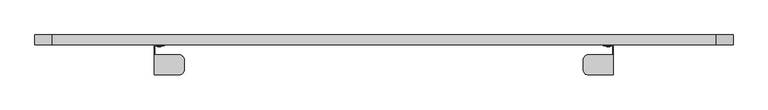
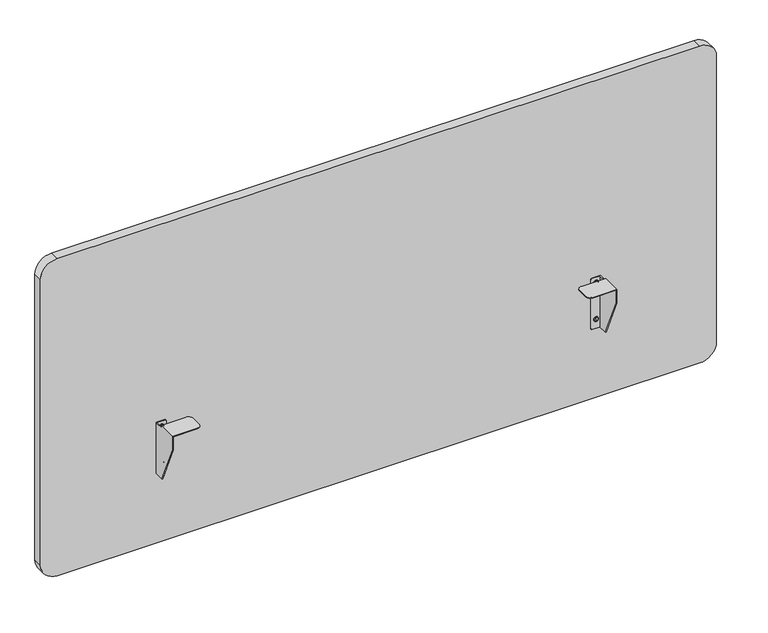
"""IFC4 building model written with IfcOpenShell, lengths in millimetres: furniture geometry."""

from ifc_helpers import new_model, si_unit, point, frame, frame_2d, origin, place, context, project, spatial, polyline, circle_curve, ellipse_curve, trimmed, segment, composite_curve, outline, extrude, source, transform, mapped, element, save
from ifc_brep_helpers import plane_surface, cylinder_surface, revolved_surface, advanced_brep


def furniture_34fdd63b(model_context):
    return source(origin(), model_context, "Body", "SolidModel", [
        advanced_brep(
        [(1460.5, 21.8059009, 589.8587612), (1460.5, 21.8059009, 595.0458981), (1460.5, 21.8059009, 600.2330349), (1460.5, 20.9972467, 589.0501071), (1460.5, 20.9972467, 601.041689), (1460.5, 19.6576489, 589.3571695), (1460.5, 19.6576489, 600.7346266), (1460.5, 18.6965248, 595.0458981)],
        [
            (0, 1),
            (1, 2),
            (2, 0, circle_curve(frame((1460.5, 21.8059009, 595.0458981), z_axis=(0.0, 1.0, 0.0), x_axis=(0.0, 0.0, 1.0)), 5.1871369)),
            (0, 2, circle_curve(frame((1460.5, 21.8059009, 595.0458981), z_axis=(0.0, 1.0, 0.0), x_axis=(0.0, 0.0, 1.0)), 5.1871369)),
            (3, 0),
            (2, 4),
            (4, 3, circle_curve(frame((1460.5, 20.9972467, 595.0458981), z_axis=(0.0, 1.0, 0.0), x_axis=(0.0, 0.0, 1.0)), 5.995791)),
            (3, 4, circle_curve(frame((1460.5, 20.9972467, 595.0458981), z_axis=(0.0, 1.0, 0.0), x_axis=(0.0, 0.0, 1.0)), 5.995791)),
            (5, 3, circle_curve(frame((1460.5, 20.4237193, 589.6236345), z_axis=(1.0, 0.0, 0.0), x_axis=(0.0, 1.0, 0.0)), 0.8110903)),
            (4, 6, circle_curve(frame((1460.5, 20.4237193, 600.4681616), z_axis=(1.0, 0.0, 0.0), x_axis=(0.0, 1.0, 0.0)), 0.8110903)),
            (6, 5, circle_curve(frame((1460.5, 19.6576489, 595.0458981), z_axis=(0.0, 1.0, 0.0), x_axis=(0.0, 0.0, 1.0)), 5.6887286)),
            (5, 6, circle_curve(frame((1460.5, 19.6576489, 595.0458981), z_axis=(0.0, 1.0, 0.0), x_axis=(0.0, 0.0, 1.0)), 5.6887286)),
            (7, 5, circle_curve(frame((1460.5, 36.0123901, 595.0458981), z_axis=(1.0, 0.0, 0.0), x_axis=(0.0, 1.0, 0.0)), 17.3158653)),
            (6, 7, circle_curve(frame((1460.5, 36.0123901, 595.0458981), z_axis=(1.0, 0.0, 0.0), x_axis=(0.0, 1.0, 0.0)), 17.3158653)),
        ],
        [
            plane_surface(frame((1460.5, 21.8059009, 595.0458981), z_axis=(0.0, 1.0, 0.0), x_axis=(0.0, 0.0, 1.0))),
            revolved_surface(polyline([(1460.5, 21.8059009, 600.2330349), (1460.5, 20.9972467, 601.041689)]), (1460.5, 24.1274926, 595.0458981), (0.0, -1.0, 0.0)),
            revolved_surface(trimmed(ellipse_curve(frame((1460.5, 20.4237193, 600.4681616), z_axis=(1.0, 0.0, 0.0), x_axis=(0.0, 1.0, 0.0)), 0.8110903, 0.8110903), [point((1460.5, 20.9972467, 601.041689))], [point((1460.5, 19.6576489, 600.7346266))], True, "CARTESIAN"), (1460.5, 24.1274926, 595.0458981), (0.0, -1.0, 0.0)),
            revolved_surface(trimmed(ellipse_curve(frame((1460.5, 36.0123901, 595.0458981), z_axis=(1.0, 0.0, 0.0), x_axis=(0.0, 1.0, 0.0)), 17.3158653, 17.3158653), [point((1460.5, 19.6576489, 600.7346266))], [point((1460.5, 18.6965248, 595.0458981))], True, "CARTESIAN"), (1460.5, 24.1274926, 595.0458981), (0.0, -1.0, 0.0)),
        ],
        [
            (0, [[1, 2, 3]]),
            (0, [[-2, -1, 4]]),
            (1, [[5, -3, 6, 7]]),
            (1, [[-6, -4, -5, 8]]),
            (2, [[9, -7, 10, 11]]),
            (2, [[-10, -8, -9, 12]]),
            (3, [[13, -11, 14]]),
            (3, [[-14, -12, -13]]),
        ],
    ),
        advanced_brep(
        [(1460.5, 21.8059009, 691.4587612), (1460.5, 21.8059009, 696.6458981), (1460.5, 21.8059009, 701.8330349), (1460.5, 20.9972467, 690.6501071), (1460.5, 20.9972467, 702.641689), (1460.5, 19.6576489, 690.9571695), (1460.5, 19.6576489, 702.3346266), (1460.5, 18.6965248, 696.6458981)],
        [
            (0, 1),
            (1, 2),
            (2, 0, circle_curve(frame((1460.5, 21.8059009, 696.6458981), z_axis=(0.0, 1.0, 0.0), x_axis=(0.0, 0.0, 1.0)), 5.1871369)),
            (0, 2, circle_curve(frame((1460.5, 21.8059009, 696.6458981), z_axis=(0.0, 1.0, 0.0), x_axis=(0.0, 0.0, 1.0)), 5.1871369)),
            (3, 0),
            (2, 4),
            (4, 3, circle_curve(frame((1460.5, 20.9972467, 696.6458981), z_axis=(0.0, 1.0, 0.0), x_axis=(0.0, 0.0, 1.0)), 5.995791)),
            (3, 4, circle_curve(frame((1460.5, 20.9972467, 696.6458981), z_axis=(0.0, 1.0, 0.0), x_axis=(0.0, 0.0, 1.0)), 5.995791)),
            (5, 3, circle_curve(frame((1460.5, 20.4237193, 691.2236345), z_axis=(1.0, 0.0, 0.0), x_axis=(0.0, 1.0, 0.0)), 0.8110903)),
            (4, 6, circle_curve(frame((1460.5, 20.4237193, 702.0681616), z_axis=(1.0, 0.0, 0.0), x_axis=(0.0, 1.0, 0.0)), 0.8110903)),
            (6, 5, circle_curve(frame((1460.5, 19.6576489, 696.6458981), z_axis=(0.0, 1.0, 0.0), x_axis=(0.0, 0.0, 1.0)), 5.6887286)),
            (5, 6, circle_curve(frame((1460.5, 19.6576489, 696.6458981), z_axis=(0.0, 1.0, 0.0), x_axis=(0.0, 0.0, 1.0)), 5.6887286)),
            (7, 5, circle_curve(frame((1460.5, 36.0123901, 696.6458981), z_axis=(1.0, 0.0, 0.0), x_axis=(0.0, 1.0, 0.0)), 17.3158653)),
            (6, 7, circle_curve(frame((1460.5, 36.0123901, 696.6458981), z_axis=(1.0, 0.0, 0.0), x_axis=(0.0, 1.0, 0.0)), 17.3158653)),
        ],
        [
            plane_surface(frame((1460.5, 21.8059009, 696.6458981), z_axis=(0.0, 1.0, 0.0), x_axis=(0.0, 0.0, 1.0))),
            revolved_surface(polyline([(1460.5, 21.8059009, 701.8330349), (1460.5, 20.9972467, 702.641689)]), (1460.5, 24.1274926, 696.6458981), (0.0, -1.0, 0.0)),
            revolved_surface(trimmed(ellipse_curve(frame((1460.5, 20.4237193, 702.0681616), z_axis=(1.0, 0.0, 0.0), x_axis=(0.0, 1.0, 0.0)), 0.8110903, 0.8110903), [point((1460.5, 20.9972467, 702.641689))], [point((1460.5, 19.6576489, 702.3346266))], True, "CARTESIAN"), (1460.5, 24.1274926, 696.6458981), (0.0, -1.0, 0.0)),
            revolved_surface(trimmed(ellipse_curve(frame((1460.5, 36.0123901, 696.6458981), z_axis=(1.0, 0.0, 0.0), x_axis=(0.0, 1.0, 0.0)), 17.3158653, 17.3158653), [point((1460.5, 19.6576489, 702.3346266))], [point((1460.5, 18.6965248, 696.6458981))], True, "CARTESIAN"), (1460.5, 24.1274926, 696.6458981), (0.0, -1.0, 0.0)),
        ],
        [
            (0, [[1, 2, 3]]),
            (0, [[-2, -1, 4]]),
            (1, [[5, -3, 6, 7]]),
            (1, [[-6, -4, -5, 8]]),
            (2, [[9, -7, 10, 11]]),
            (2, [[-10, -8, -9, 12]]),
            (3, [[13, -11, 14]]),
            (3, [[-14, -12, -13]]),
        ],
    ),
        advanced_brep(
        [(1409.7510279, -52.8066014, 717.55), (1409.7510279, -52.8066014, 715.9625), (1471.6635461, -52.8066014, 715.9625), (1471.6635461, -52.8066014, 679.4500392), (1473.2510461, -52.8066014, 679.4500392), (1473.2510461, -52.8066014, 717.55), (1409.7510279, -2.0065999, 715.9625), (1409.7510279, -2.0065999, 717.55), (1473.2510461, -2.0065999, 717.55), (1473.2510461, -2.0065999, 710.2872593), (1471.6635461, -2.0065999, 710.2872593), (1471.6635461, -2.0065999, 715.9625), (1397.0510279, -14.7065999, 717.55), (1397.0510279, -40.1066014, 717.55), (1473.2510461, -3.2766045, 568.7822274), (1473.2510461, 21.8059009, 568.7822274), (1473.2510461, 21.8059009, 710.2872593), (1471.6635461, -3.2766045, 568.7822274), (1471.6635461, 21.8059009, 568.7822274), (1450.232284, 21.8059009, 568.7822274), (1450.232284, 23.3934009, 568.7822274), (1471.6635461, 23.3934009, 568.7822274), (1471.6635461, 21.8059009, 710.2872593), (1397.0510279, -40.1066014, 715.9625), (1397.0510279, -14.7065999, 715.9625), (1471.6635461, 23.3934009, 710.2872593), (1454.5457771, 23.3934009, 710.2872593), (1450.232284, 23.3934009, 710.2872593), (1450.232284, 21.8059009, 710.2872593), (1454.5457771, 21.8059009, 710.2872593), (1447.851034, 21.8059009, 707.9060093), (1447.851034, 21.8059009, 571.1634774), (1447.851034, 23.3934009, 571.1634774), (1447.851034, 23.3934009, 707.9060093)],
        [
            (0, 1),
            (1, 2),
            (2, 3),
            (3, 4),
            (4, 5),
            (5, 0),
            (6, 7),
            (7, 8),
            (8, 9),
            (9, 10),
            (10, 11),
            (11, 6),
            (7, 12, circle_curve(frame((1409.7510279, -14.7065999, 717.55), z_axis=(0.0, 0.0, 1.0), x_axis=(-1.0, 0.0, 0.0)), 12.7)),
            (12, 13),
            (13, 0, circle_curve(frame((1409.7510279, -40.1066014, 717.55), z_axis=(0.0, 0.0, 1.0), x_axis=(-1.0, 0.0, 0.0)), 12.7)),
            (5, 8),
            (4, 14),
            (14, 15),
            (15, 16),
            (16, 9),
            (14, 17),
            (17, 18),
            (18, 19),
            (19, 20),
            (20, 21),
            (21, 15, circle_curve(frame((1471.6635461, 21.8059009, 568.7822274), z_axis=(0.0, 0.0, -1.0), x_axis=(-1.0, 0.0, 0.0)), 1.5875)),
            (10, 22),
            (22, 18),
            (17, 3),
            (2, 11),
            (1, 23, circle_curve(frame((1409.7510279, -40.1066014, 715.9625), z_axis=(0.0, 0.0, -1.0), x_axis=(-1.0, 0.0, 0.0)), 12.7)),
            (23, 24),
            (24, 6, circle_curve(frame((1409.7510279, -14.7065999, 715.9625), z_axis=(0.0, 0.0, -1.0), x_axis=(-1.0, 0.0, 0.0)), 12.7)),
            (12, 24),
            (23, 13),
            (16, 25, circle_curve(frame((1471.6635461, 21.8059009, 710.2872593), z_axis=(0.0, 0.0, 1.0), x_axis=(-1.0, 0.0, 0.0)), 1.5875)),
            (25, 26),
            (26, 27),
            (27, 28),
            (28, 29),
            (29, 22),
            (28, 30, circle_curve(frame((1450.232284, 21.8059009, 707.9060093), z_axis=(0.0, -1.0, 0.0), x_axis=(-1.0, 0.0, 0.0)), 2.38125)),
            (30, 31),
            (31, 19, circle_curve(frame((1450.232284, 21.8059009, 571.1634774), z_axis=(0.0, -1.0, 0.0), x_axis=(-1.0, 0.0, 0.0)), 2.38125)),
            (20, 32, circle_curve(frame((1450.232284, 23.3934009, 571.1634774), z_axis=(0.0, 1.0, 0.0), x_axis=(-1.0, 0.0, 0.0)), 2.38125)),
            (32, 33),
            (33, 27, circle_curve(frame((1450.232284, 23.3934009, 707.9060093), z_axis=(0.0, 1.0, 0.0), x_axis=(-1.0, 0.0, 0.0)), 2.38125)),
            (25, 21),
            (31, 32),
            (33, 30),
        ],
        [
            plane_surface(frame((1474.668122, -52.8066014, 717.55), z_axis=(0.0, -1.0, 0.0), x_axis=(1.0, 0.0, 0.0))),
            plane_surface(frame((1474.668122, -2.0065999, 717.55), z_axis=(0.0, 1.0, 0.0), x_axis=(-1.0, 0.0, 0.0))),
            plane_surface(frame((1397.0510279, -52.8066014, 717.55), z_axis=(0.0, 0.0, 1.0), x_axis=(0.0, 1.0, 0.0))),
            plane_surface(frame((1473.2510461, -52.8066014, 717.55), z_axis=(1.0, 0.0, 0.0), x_axis=(0.0, 1.0, 0.0))),
            plane_surface(frame((1473.2510461, -52.8066014, 568.7822274), z_axis=(0.0, 0.0, -1.0), x_axis=(0.0, 1.0, 0.0))),
            plane_surface(frame((1471.6635461, -52.8066014, 568.7822274), z_axis=(-1.0, 0.0, 0.0), x_axis=(0.0, 1.0, 0.0))),
            plane_surface(frame((1471.6635461, -52.8066014, 715.9625), z_axis=(0.0, 0.0, -1.0), x_axis=(0.0, 1.0, 0.0))),
            plane_surface(frame((1397.0510279, -52.8066014, 715.9625), z_axis=(-1.0, 0.0, 0.0), x_axis=(0.0, 1.0, 0.0))),
            cylinder_surface(frame((1409.7510279, -14.7065999, 715.9625), z_axis=(0.0, 0.0, -1.0), x_axis=(-1.0, 0.0, 0.0)), 12.7),
            cylinder_surface(frame((1409.7510279, -40.1066014, 717.55), z_axis=(0.0, 0.0, -1.0), x_axis=(-1.0, 0.0, 0.0)), 12.7),
            plane_surface(frame((1473.2510461, -52.8066014, 679.4500392), z_axis=(0.0, -0.9127545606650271, -0.4085083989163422), x_axis=(-1.0, 0.0, 0.0))),
            plane_surface(frame((1473.2510461, 0.0, 710.2872593), z_axis=(0.0, 0.0, 1.0), x_axis=(0.0, -1.0, 0.0))),
            plane_surface(frame((1471.6635461, 21.8059009, 710.2872593), z_axis=(0.0, -1.0, 0.0), x_axis=(0.0, 0.0, -1.0))),
            plane_surface(frame((1446.0201082, 23.3934009, 710.2872593), z_axis=(0.0, 1.0, 0.0), x_axis=(0.0, 0.0, -1.0))),
            cylinder_surface(frame((1450.232284, 23.3934009, 571.1634774), z_axis=(0.0, 1.0, 0.0), x_axis=(-1.0, 0.0, 0.0)), 2.38125),
            cylinder_surface(frame((1450.232284, 23.3934009, 707.9060093), z_axis=(0.0, 1.0, 0.0), x_axis=(-1.0, 0.0, 0.0)), 2.38125),
            plane_surface(frame((1447.851034, 21.8059009, 707.9060093), z_axis=(-1.0, 0.0, 0.0), x_axis=(0.0, 1.0, 0.0))),
            cylinder_surface(frame((1471.6635461, 21.8059009, 568.7822274), z_axis=(0.0, 0.0, 1.0), x_axis=(-1.0, 0.0, 0.0)), 1.5875),
        ],
        [
            (0, [[1, 2, 3, 4, 5, 6]]),
            (1, [[7, 8, 9, 10, 11, 12]]),
            (2, [[-8, 13, 14, 15, -6, 16]]),
            (3, [[-5, 17, 18, 19, 20, -9, -16]]),
            (4, [[21, 22, 23, 24, 25, 26, -18]]),
            (5, [[-11, 27, 28, -22, 29, -3, 30]]),
            (6, [[-2, 31, 32, 33, -12, -30]]),
            (7, [[34, -32, 35, -14]]),
            (8, [[-33, -34, -13, -7]]),
            (9, [[-15, -35, -31, -1]]),
            (10, [[-29, -21, -17, -4]]),
            (11, [[36, 37, 38, 39, 40, 41, -27, -10, -20]]),
            (12, [[-41, -40, 42, 43, 44, -23, -28]]),
            (13, [[45, 46, 47, -38, -37, 48, -25]]),
            (14, [[-45, -24, -44, 49]]),
            (15, [[-42, -39, -47, 50]]),
            (16, [[-43, -50, -46, -49]]),
            (17, [[-19, -26, -48, -36]]),
        ],
    ),
        advanced_brep(
        [(317.5, 21.8059009, 589.8587612), (317.5, 21.8059009, 600.2330349), (317.5, 21.8059009, 595.0458981), (317.5, 20.9972467, 589.0501071), (317.5, 20.9972467, 601.041689), (317.5, 19.6576489, 589.3571695), (317.5, 19.6576489, 600.7346266), (317.5, 18.6965248, 595.0458981)],
        [
            (0, 1, circle_curve(frame((317.5, 21.8059009, 595.0458981), z_axis=(0.0, 1.0, 0.0), x_axis=(0.0, 0.0, 1.0)), 5.1871369)),
            (1, 2),
            (2, 0),
            (1, 0, circle_curve(frame((317.5, 21.8059009, 595.0458981), z_axis=(0.0, 1.0, 0.0), x_axis=(0.0, 0.0, 1.0)), 5.1871369)),
            (3, 4, circle_curve(frame((317.5, 20.9972467, 595.0458981), z_axis=(0.0, 1.0, 0.0), x_axis=(0.0, 0.0, 1.0)), 5.995791)),
            (4, 1),
            (0, 3),
            (4, 3, circle_curve(frame((317.5, 20.9972467, 595.0458981), z_axis=(0.0, 1.0, 0.0), x_axis=(0.0, 0.0, 1.0)), 5.995791)),
            (5, 6, circle_curve(frame((317.5, 19.6576489, 595.0458981), z_axis=(0.0, 1.0, 0.0), x_axis=(0.0, 0.0, 1.0)), 5.6887286)),
            (6, 4, circle_curve(frame((317.5, 20.4237193, 600.4681616), z_axis=(-1.0, 0.0, 0.0), x_axis=(0.0, 1.0, 0.0)), 0.8110903)),
            (3, 5, circle_curve(frame((317.5, 20.4237193, 589.6236345), z_axis=(-1.0, 0.0, 0.0), x_axis=(0.0, 1.0, 0.0)), 0.8110903)),
            (6, 5, circle_curve(frame((317.5, 19.6576489, 595.0458981), z_axis=(0.0, 1.0, 0.0), x_axis=(0.0, 0.0, 1.0)), 5.6887286)),
            (7, 6, circle_curve(frame((317.5, 36.0123901, 595.0458981), z_axis=(-1.0, 0.0, 0.0), x_axis=(0.0, 1.0, 0.0)), 17.3158653)),
            (5, 7, circle_curve(frame((317.5, 36.0123901, 595.0458981), z_axis=(-1.0, 0.0, 0.0), x_axis=(0.0, 1.0, 0.0)), 17.3158653)),
        ],
        [
            plane_surface(frame((317.5, 21.8059009, 595.0458981), z_axis=(0.0, 1.0, 0.0), x_axis=(0.0, 0.0, 1.0))),
            revolved_surface(polyline([(317.5, 21.8059009, 600.2330349), (317.5, 20.9972467, 601.041689)]), (317.5, 24.1274926, 595.0458981), (0.0, -1.0, 0.0)),
            revolved_surface(trimmed(ellipse_curve(frame((317.5, 20.4237193, 600.4681616), z_axis=(1.0, 0.0, 0.0), x_axis=(0.0, 1.0, 0.0)), 0.8110903, 0.8110903), [point((317.5, 20.9972467, 601.041689))], [point((317.5, 19.6576489, 600.7346266))], True, "CARTESIAN"), (317.5, 24.1274926, 595.0458981), (0.0, -1.0, 0.0)),
            revolved_surface(trimmed(ellipse_curve(frame((317.5, 36.0123901, 595.0458981), z_axis=(1.0, 0.0, 0.0), x_axis=(0.0, 1.0, 0.0)), 17.3158653, 17.3158653), [point((317.5, 19.6576489, 600.7346266))], [point((317.5, 18.6965248, 595.0458981))], True, "CARTESIAN"), (317.5, 24.1274926, 595.0458981), (0.0, -1.0, 0.0)),
        ],
        [
            (0, [[1, 2, 3]]),
            (0, [[4, -3, -2]]),
            (1, [[5, 6, -1, 7]]),
            (1, [[8, -7, -4, -6]]),
            (2, [[9, 10, -5, 11]]),
            (2, [[12, -11, -8, -10]]),
            (3, [[13, -9, 14]]),
            (3, [[-14, -12, -13]]),
        ],
    ),
        advanced_brep(
        [(317.5, 21.8059009, 691.4587612), (317.5, 21.8059009, 701.8330349), (317.5, 21.8059009, 696.6458981), (317.5, 20.9972467, 690.6501071), (317.5, 20.9972467, 702.641689), (317.5, 19.6576489, 690.9571695), (317.5, 19.6576489, 702.3346266), (317.5, 18.6965248, 696.6458981)],
        [
            (0, 1, circle_curve(frame((317.5, 21.8059009, 696.6458981), z_axis=(0.0, 1.0, 0.0), x_axis=(0.0, 0.0, 1.0)), 5.1871369)),
            (1, 2),
            (2, 0),
            (1, 0, circle_curve(frame((317.5, 21.8059009, 696.6458981), z_axis=(0.0, 1.0, 0.0), x_axis=(0.0, 0.0, 1.0)), 5.1871369)),
            (3, 4, circle_curve(frame((317.5, 20.9972467, 696.6458981), z_axis=(0.0, 1.0, 0.0), x_axis=(0.0, 0.0, 1.0)), 5.995791)),
            (4, 1),
            (0, 3),
            (4, 3, circle_curve(frame((317.5, 20.9972467, 696.6458981), z_axis=(0.0, 1.0, 0.0), x_axis=(0.0, 0.0, 1.0)), 5.995791)),
            (5, 6, circle_curve(frame((317.5, 19.6576489, 696.6458981), z_axis=(0.0, 1.0, 0.0), x_axis=(0.0, 0.0, 1.0)), 5.6887286)),
            (6, 4, circle_curve(frame((317.5, 20.4237193, 702.0681616), z_axis=(-1.0, 0.0, 0.0), x_axis=(0.0, 1.0, 0.0)), 0.8110903)),
            (3, 5, circle_curve(frame((317.5, 20.4237193, 691.2236345), z_axis=(-1.0, 0.0, 0.0), x_axis=(0.0, 1.0, 0.0)), 0.8110903)),
            (6, 5, circle_curve(frame((317.5, 19.6576489, 696.6458981), z_axis=(0.0, 1.0, 0.0), x_axis=(0.0, 0.0, 1.0)), 5.6887286)),
            (7, 6, circle_curve(frame((317.5, 36.0123901, 696.6458981), z_axis=(-1.0, 0.0, 0.0), x_axis=(0.0, 1.0, 0.0)), 17.3158653)),
            (5, 7, circle_curve(frame((317.5, 36.0123901, 696.6458981), z_axis=(-1.0, 0.0, 0.0), x_axis=(0.0, 1.0, 0.0)), 17.3158653)),
        ],
        [
            plane_surface(frame((317.5, 21.8059009, 696.6458981), z_axis=(0.0, 1.0, 0.0), x_axis=(0.0, 0.0, 1.0))),
            revolved_surface(polyline([(317.5, 21.8059009, 701.8330349), (317.5, 20.9972467, 702.641689)]), (317.5, 24.1274926, 696.6458981), (0.0, -1.0, 0.0)),
            revolved_surface(trimmed(ellipse_curve(frame((317.5, 20.4237193, 702.0681616), z_axis=(1.0, 0.0, 0.0), x_axis=(0.0, 1.0, 0.0)), 0.8110903, 0.8110903), [point((317.5, 20.9972467, 702.641689))], [point((317.5, 19.6576489, 702.3346266))], True, "CARTESIAN"), (317.5, 24.1274926, 696.6458981), (0.0, -1.0, 0.0)),
            revolved_surface(trimmed(ellipse_curve(frame((317.5, 36.0123901, 696.6458981), z_axis=(1.0, 0.0, 0.0), x_axis=(0.0, 1.0, 0.0)), 17.3158653, 17.3158653), [point((317.5, 19.6576489, 702.3346266))], [point((317.5, 18.6965248, 696.6458981))], True, "CARTESIAN"), (317.5, 24.1274926, 696.6458981), (0.0, -1.0, 0.0)),
        ],
        [
            (0, [[1, 2, 3]]),
            (0, [[4, -3, -2]]),
            (1, [[5, 6, -1, 7]]),
            (1, [[8, -7, -4, -6]]),
            (2, [[9, 10, -5, 11]]),
            (2, [[12, -11, -8, -10]]),
            (3, [[13, -9, 14]]),
            (3, [[-14, -12, -13]]),
        ],
    ),
        advanced_brep(
        [(368.2489721, -52.8066014, 717.55), (304.7489539, -52.8066014, 717.55), (304.7489539, -52.8066014, 679.4500392), (306.3364539, -52.8066014, 679.4500392), (306.3364539, -52.8066014, 715.9625), (368.2489721, -52.8066014, 715.9625), (368.2489721, -2.0065999, 715.9625), (306.3364539, -2.0065999, 715.9625), (306.3364539, -2.0065999, 710.2872593), (304.7489539, -2.0065999, 710.2872593), (304.7489539, -2.0065999, 717.55), (368.2489721, -2.0065999, 717.55), (380.9489721, -40.1066014, 717.55), (380.9489721, -14.7065999, 717.55), (304.7489539, 21.8059009, 710.2872593), (304.7489539, 21.8059009, 568.7822274), (304.7489539, -3.2766045, 568.7822274), (306.3364539, 23.3934009, 568.7822274), (327.767716, 23.3934009, 568.7822274), (327.767716, 21.8059009, 568.7822274), (306.3364539, 21.8059009, 568.7822274), (306.3364539, -3.2766045, 568.7822274), (306.3364539, 21.8059009, 710.2872593), (380.9489721, -14.7065999, 715.9625), (380.9489721, -40.1066014, 715.9625), (323.4542229, 21.8059009, 710.2872593), (327.767716, 21.8059009, 710.2872593), (327.767716, 23.3934009, 710.2872593), (323.4542229, 23.3934009, 710.2872593), (306.3364539, 23.3934009, 710.2872593), (330.148966, 21.8059009, 571.1634774), (330.148966, 21.8059009, 707.9060093), (330.148966, 23.3934009, 707.9060093), (330.148966, 23.3934009, 571.1634774)],
        [
            (0, 1),
            (1, 2),
            (2, 3),
            (3, 4),
            (4, 5),
            (5, 0),
            (6, 7),
            (7, 8),
            (8, 9),
            (9, 10),
            (10, 11),
            (11, 6),
            (10, 1),
            (0, 12, circle_curve(frame((368.2489721, -40.1066014, 717.55), z_axis=(0.0, 0.0, 1.0), x_axis=(1.0, 0.0, 0.0)), 12.7)),
            (12, 13),
            (13, 11, circle_curve(frame((368.2489721, -14.7065999, 717.55), z_axis=(0.0, 0.0, 1.0), x_axis=(1.0, 0.0, 0.0)), 12.7)),
            (9, 14),
            (14, 15),
            (15, 16),
            (16, 2),
            (15, 17, circle_curve(frame((306.3364539, 21.8059009, 568.7822274), z_axis=(0.0, 0.0, -1.0), x_axis=(1.0, 0.0, 0.0)), 1.5875)),
            (17, 18),
            (18, 19),
            (19, 20),
            (20, 21),
            (21, 16),
            (7, 4),
            (3, 21),
            (20, 22),
            (22, 8),
            (6, 23, circle_curve(frame((368.2489721, -14.7065999, 715.9625), z_axis=(0.0, 0.0, -1.0), x_axis=(1.0, 0.0, 0.0)), 12.7)),
            (23, 24),
            (24, 5, circle_curve(frame((368.2489721, -40.1066014, 715.9625), z_axis=(0.0, 0.0, -1.0), x_axis=(1.0, 0.0, 0.0)), 12.7)),
            (12, 24),
            (23, 13),
            (22, 25),
            (25, 26),
            (26, 27),
            (27, 28),
            (28, 29),
            (29, 14, circle_curve(frame((306.3364539, 21.8059009, 710.2872593), z_axis=(0.0, 0.0, 1.0), x_axis=(1.0, 0.0, 0.0)), 1.5875)),
            (19, 30, circle_curve(frame((327.767716, 21.8059009, 571.1634774), z_axis=(0.0, -1.0, 0.0), x_axis=(1.0, 0.0, 0.0)), 2.38125)),
            (30, 31),
            (31, 26, circle_curve(frame((327.767716, 21.8059009, 707.9060093), z_axis=(0.0, -1.0, 0.0), x_axis=(1.0, 0.0, 0.0)), 2.38125)),
            (17, 29),
            (27, 32, circle_curve(frame((327.767716, 23.3934009, 707.9060093), z_axis=(0.0, 1.0, 0.0), x_axis=(1.0, 0.0, 0.0)), 2.38125)),
            (32, 33),
            (33, 18, circle_curve(frame((327.767716, 23.3934009, 571.1634774), z_axis=(0.0, 1.0, 0.0), x_axis=(1.0, 0.0, 0.0)), 2.38125)),
            (33, 30),
            (31, 32),
        ],
        [
            plane_surface(frame((303.331878, -52.8066014, 717.55), z_axis=(0.0, -1.0, 0.0), x_axis=(-1.0, 0.0, 0.0))),
            plane_surface(frame((303.331878, -2.0065999, 717.55), z_axis=(0.0, 1.0, 0.0), x_axis=(1.0, 0.0, 0.0))),
            plane_surface(frame((380.9489721, -52.8066014, 717.55), z_axis=(0.0, 0.0, 1.0), x_axis=(0.0, 1.0, 0.0))),
            plane_surface(frame((304.7489539, -52.8066014, 717.55), z_axis=(-1.0, 0.0, 0.0), x_axis=(0.0, 1.0, 0.0))),
            plane_surface(frame((304.7489539, -52.8066014, 568.7822274), z_axis=(0.0, 0.0, -1.0), x_axis=(0.0, 1.0, 0.0))),
            plane_surface(frame((306.3364539, -52.8066014, 568.7822274), z_axis=(1.0, 0.0, 0.0), x_axis=(0.0, 1.0, 0.0))),
            plane_surface(frame((306.3364539, -52.8066014, 715.9625), z_axis=(0.0, 0.0, -1.0), x_axis=(0.0, 1.0, 0.0))),
            plane_surface(frame((380.9489721, -52.8066014, 715.9625), z_axis=(1.0, 0.0, 0.0), x_axis=(0.0, 1.0, 0.0))),
            cylinder_surface(frame((368.2489721, -14.7065999, 715.9625), z_axis=(0.0, 0.0, -1.0), x_axis=(1.0, 0.0, 0.0)), 12.7),
            cylinder_surface(frame((368.2489721, -40.1066014, 717.55), z_axis=(0.0, 0.0, -1.0), x_axis=(1.0, 0.0, 0.0)), 12.7),
            plane_surface(frame((304.7489539, -52.8066014, 679.4500392), z_axis=(0.0, -0.9127545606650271, -0.4085083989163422), x_axis=(1.0, 0.0, 0.0))),
            plane_surface(frame((304.7489539, 0.0, 710.2872593), z_axis=(0.0, 0.0, 1.0), x_axis=(0.0, -1.0, 0.0))),
            plane_surface(frame((306.3364539, 21.8059009, 710.2872593), z_axis=(0.0, -1.0, 0.0), x_axis=(0.0, 0.0, -1.0))),
            plane_surface(frame((331.9798918, 23.3934009, 710.2872593), z_axis=(0.0, 1.0, 0.0), x_axis=(0.0, 0.0, -1.0))),
            cylinder_surface(frame((327.767716, 23.3934009, 571.1634774), z_axis=(0.0, 1.0, 0.0), x_axis=(1.0, 0.0, 0.0)), 2.38125),
            cylinder_surface(frame((327.767716, 23.3934009, 707.9060093), z_axis=(0.0, 1.0, 0.0), x_axis=(1.0, 0.0, 0.0)), 2.38125),
            plane_surface(frame((330.148966, 21.8059009, 707.9060093), z_axis=(1.0, 0.0, 0.0), x_axis=(0.0, 1.0, 0.0))),
            cylinder_surface(frame((306.3364539, 21.8059009, 568.7822274), z_axis=(0.0, 0.0, 1.0), x_axis=(1.0, 0.0, 0.0)), 1.5875),
        ],
        [
            (0, [[1, 2, 3, 4, 5, 6]]),
            (1, [[7, 8, 9, 10, 11, 12]]),
            (2, [[13, -1, 14, 15, 16, -11]]),
            (3, [[-13, -10, 17, 18, 19, 20, -2]]),
            (4, [[-19, 21, 22, 23, 24, 25, 26]]),
            (5, [[27, -4, 28, -25, 29, 30, -8]]),
            (6, [[-27, -7, 31, 32, 33, -5]]),
            (7, [[-15, 34, -32, 35]]),
            (8, [[-12, -16, -35, -31]]),
            (9, [[-6, -33, -34, -14]]),
            (10, [[-3, -20, -26, -28]]),
            (11, [[-17, -9, -30, 36, 37, 38, 39, 40, 41]]),
            (12, [[-29, -24, 42, 43, 44, -37, -36]]),
            (13, [[-22, 45, -40, -39, 46, 47, 48]]),
            (14, [[49, -42, -23, -48]]),
            (15, [[50, -46, -38, -44]]),
            (16, [[-49, -47, -50, -43]]),
            (17, [[-41, -45, -21, -18]]),
        ],
    ),
        extrude(outline(composite_curve([segment(polyline([(1257.3, 1734.29271), (1257.3, 45.19271)]), True, "CONTINUOUS"), segment(trimmed(circle_curve(frame_2d((1212.85, 45.19271)), 44.45), [point((1257.3, 45.19271))], [point((1212.85, 0.74271))], False, "CARTESIAN"), True, "CONTINUOUS"), segment(polyline([(1212.85, 0.74271), (419.1, 0.74271)]), True, "CONTINUOUS"), segment(trimmed(circle_curve(frame_2d((419.1, 45.19271)), 44.45), [point((419.1, 0.74271))], [point((374.65, 45.19271))], False, "CARTESIAN"), True, "CONTINUOUS"), segment(polyline([(374.65, 45.19271), (374.65, 1734.29271)]), True, "CONTINUOUS"), segment(trimmed(circle_curve(frame_2d((419.1, 1734.29271)), 44.45), [point((374.65, 1734.29271))], [point((419.1, 1778.74271))], False, "CARTESIAN"), True, "CONTINUOUS"), segment(polyline([(419.1, 1778.74271), (1212.85, 1778.74271)]), True, "CONTINUOUS"), segment(trimmed(circle_curve(frame_2d((1212.85, 1734.29271)), 44.45), [point((1212.85, 1778.74271))], [point((1257.3, 1734.29271))], False, "CARTESIAN"), True, "CONTINUOUS")], self_intersect=False)), frame((0.0, 23.3934009, 0.0), z_axis=(0.0, 1.0, 0.0), x_axis=(0.0, 0.0, 1.0)), (0.0, 0.0, 1.0), 25.4),
    ])


if __name__ == "__main__":
    model = new_model("IFC4")
    model_context = context("Model", 3, world=origin())
    ifc_project = project(units=[si_unit("LENGTHUNIT", "METRE", prefix="MILLI")], contexts=[model_context])
    site = spatial("IfcSite", under=ifc_project)
    building = spatial("IfcBuilding", under=site)
    placement = place(None, origin())
    furniture_shape = furniture_34fdd63b(model_context)
    element("IfcFurniture", 1, ObjectType="HON - Universal Screens - A B - 34H - Fabric : 34\"H x 70\"W", at=placement, inside=building, context=model_context, shape_type="MappedRepresentation", body=[
        mapped(furniture_shape, transform((0.0, 0.0, 0.0), x_axis=(1.0, 0.0, 0.0), y_axis=(0.0, 1.0, 0.0), z_axis=(0.0, 0.0, 1.0))),
    ])
    save(model, "model.ifc")
